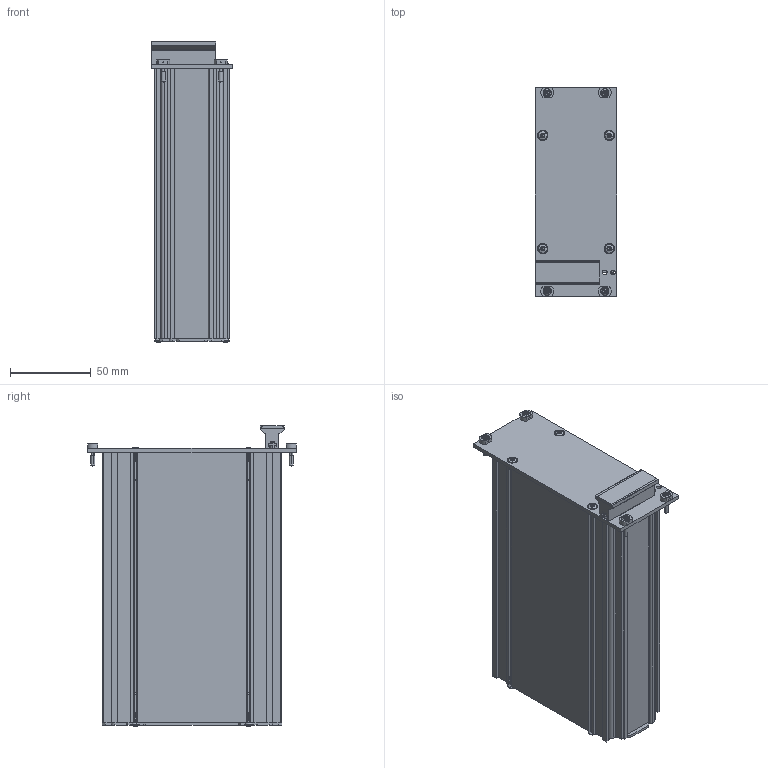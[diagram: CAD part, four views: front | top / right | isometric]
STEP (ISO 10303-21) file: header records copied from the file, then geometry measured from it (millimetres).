
FILE_DESCRIPTION (( 'STEP AP203' ), '1' );
FILE_NAME ('框架式模件盒 10HP 通风 31016721.STEP', '2026-03-31T08:49:31', ( 'Windows User' ), ( 'P R C' ), 'SwSTEP 2.0', 'SolidWorks 2013', '' );
FILE_SCHEMA (( 'CONFIG_CONTROL_DESIGN' ));
Length unit declared in the file: millimetre
Products named in the file (15): 8TE-梓齪; 耀璃碟ヶ醱啣 10TE; M2.5踢扽邳埴杶簽; M2.5-12醱啣蹟隊-坋趼; 醱啣蚾饜极 10TE; 耀璃碟裔啣 10TE; ISO 7046-2 十字槽沉头螺钉_M2.5×6; 綴醱啣 す啣; V倰臏參忒呿蹋璃; 8TE-V倰臏參忒-B; 耀璃碟耜啣 BT3U 2.0; V倰臏參忒蹟謂え; M3x20  圉麥芛赻坶蹟佪248125011; 框架式模件盒 10HP 通风 31016721; 8TE-V倰臏參忒蚾饜极
Assembly tree (31 placements, depth 4):
  框架式模件盒 10HP 通风 31016721
    醱啣蚾饜极 10TE
      耀璃碟ヶ醱啣 10TE
      8TE-V倰臏參忒蚾饜极
        8TE-V倰臏參忒-B
        8TE-梓齪
        ISO 7046-2 十字槽沉头螺钉_M2.5×6  x2
        V倰臏參忒蹟謂え  x2
        V倰臏參忒呿蹋璃
      M2.5踢扽邳埴杶簽  x4
      M2.5-12醱啣蹟隊-坋趼  x4
    綴醱啣 す啣
    耀璃碟耜啣 BT3U 2.0  x2
    M3x20  圉麥芛赻坶蹟佪248125011  x8
    耀璃碟裔啣 10TE  x2
Bounding box: 50.5 x 128.7 x 185.52 mm (x, y, z)
Volume: 136299.2 mm3; surface area: 159783.3 mm2
Topology: 29 solids, 29 shells, 1468 faces, 4114 edges, 2696 vertices
Faces by surface type: cylinder 629, plane 585, cone 142, bspline 84, torus 20, sphere 8
Entity records: 23135 total; most frequent: CARTESIAN_POINT 6682, ORIENTED_EDGE 3090, DIRECTION 2934, EDGE_CURVE 1545, VERTEX_POINT 1003, AXIS2_PLACEMENT_3D 986, LINE 962, VECTOR 962
